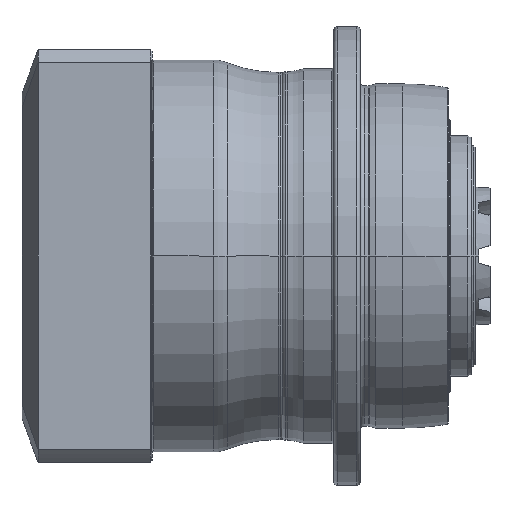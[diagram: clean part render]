
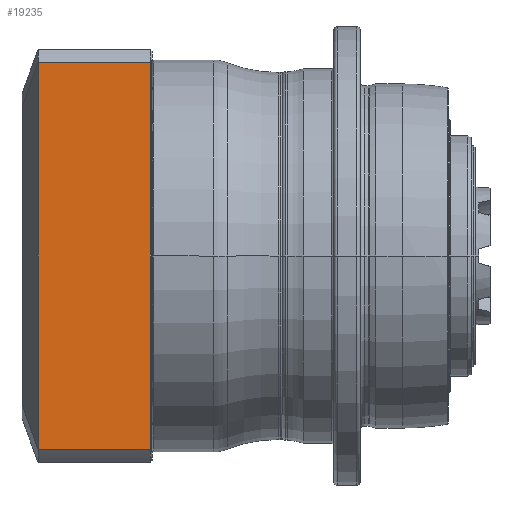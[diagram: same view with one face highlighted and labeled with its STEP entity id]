
A CAD part, front view. The second image highlights one B-rep face of the part: STEP entity #19235.
In plain terms, the highlighted planar face has unit normal (0, -1, 0) as drawn and (0, 1, 0) by its records, which use the part's own axes.
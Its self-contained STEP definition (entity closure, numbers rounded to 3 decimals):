
#17983=CARTESIAN_POINT('',(-50.596,54.,31.8));
#17985=DIRECTION('',(1.,0.,0.));
#17986=VECTOR('',#17985,101.193);
#17987=CARTESIAN_POINT('',(-50.596,54.,
2.5));
#17988=LINE('',#17987,#17986);
#17989=DIRECTION('',(0.,0.,1.));
#17990=VECTOR('',#17989,29.3);
#17991=CARTESIAN_POINT('',(50.596,54.,2.5));
#17992=LINE('',#17991,#17990);
#17993=DIRECTION('',(-1.,0.,0.));
#17994=VECTOR('',#17993,101.193);
#17995=CARTESIAN_POINT('',(50.596,54.,31.8));
#17996=LINE('',#17995,#17994);
#17997=DIRECTION('',(0.,0.,-1.));
#17998=VECTOR('',#17997,29.3);
#17999=CARTESIAN_POINT('',(-50.596,54.,31.8));
#18000=LINE('',#17999,#17998);
#18704=CARTESIAN_POINT('',(50.596,54.,31.8));
#18706=VERTEX_POINT('',#18704);
#18708=VERTEX_POINT('',#17983);
#18799=CARTESIAN_POINT('',(-50.596,54.,
2.5));
#18800=CARTESIAN_POINT('',(50.596,54.,2.5));
#18801=VERTEX_POINT('',#18799);
#18802=VERTEX_POINT('',#18800);
#19221=CARTESIAN_POINT('',(54.,54.,0.));
#19222=DIRECTION('',(0.,1.,0.));
#19223=DIRECTION('',(-1.,0.,0.));
#19224=AXIS2_PLACEMENT_3D('',#19221,#19222,#19223);
#19225=PLANE('',#19224);
#19227=ORIENTED_EDGE('',*,*,#19226,.T.);
#19229=ORIENTED_EDGE('',*,*,#19228,.T.);
#19230=ORIENTED_EDGE('',*,*,#19216,.T.);
#19232=ORIENTED_EDGE('',*,*,#19231,.T.);
#19233=EDGE_LOOP('',(#19227,#19229,#19230,#19232));
#19234=FACE_OUTER_BOUND('',#19233,.F.);
#19235=ADVANCED_FACE('',(#19234),#19225,.T.);
#19216=EDGE_CURVE('',#18706,#18708,#17996,.T.);
#19226=EDGE_CURVE('',#18801,#18802,#17988,.T.);
#19228=EDGE_CURVE('',#18802,#18706,#17992,.T.);
#19231=EDGE_CURVE('',#18708,#18801,#18000,.T.);
